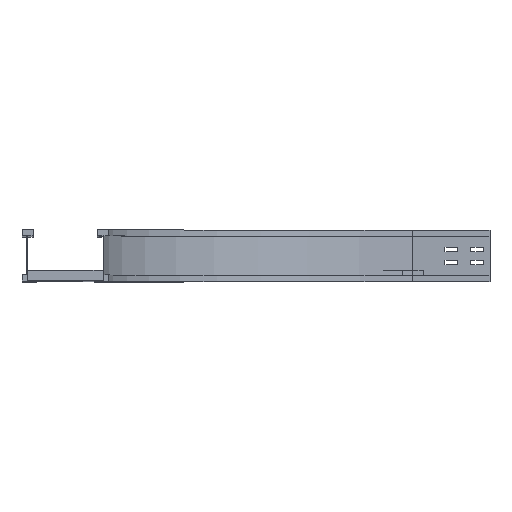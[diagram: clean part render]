
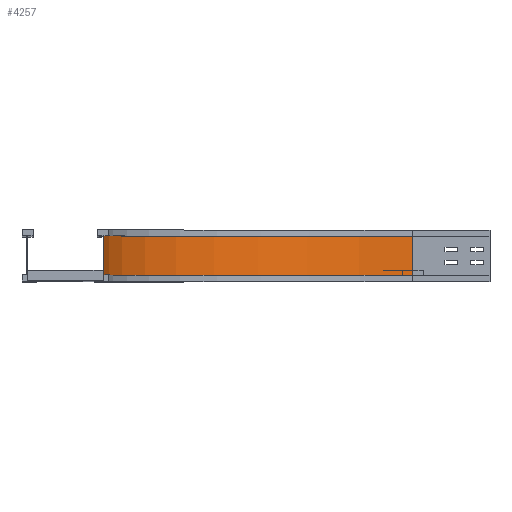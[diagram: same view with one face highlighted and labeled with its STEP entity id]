
A CAD part, top view. The second image highlights one B-rep face of the part: STEP entity #4257.
In plain terms, the highlighted cylindrical face has radius 600 mm (diameter 1200 mm), a partial arc.
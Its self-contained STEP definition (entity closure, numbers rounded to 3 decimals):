
#56 = ORIENTED_EDGE ( 'NONE', *, *, #4347, .F. ) ;
#118 = ORIENTED_EDGE ( 'NONE', *, *, #878, .T. ) ;
#312 = VERTEX_POINT ( 'NONE', #2364 ) ;
#419 = LINE ( 'NONE', #4355, #3199 ) ;
#502 = AXIS2_PLACEMENT_3D ( 'NONE', #1476, #2109, #1395 ) ;
#676 = FACE_OUTER_BOUND ( 'NONE', #1762, .T. ) ;
#768 = ORIENTED_EDGE ( 'NONE', *, *, #4382, .T. ) ;
#878 = EDGE_CURVE ( 'NONE', #2930, #3477, #3922, .T. ) ;
#1094 = DIRECTION ( 'NONE',  ( 0., 1., 0. ) ) ;
#1339 = DIRECTION ( 'NONE',  ( -1., 0., 0. ) ) ;
#1395 = DIRECTION ( 'NONE',  ( -1., 0., 0. ) ) ;
#1476 = CARTESIAN_POINT ( 'NONE',  ( 591., 12., -150. ) ) ;
#1478 = DIRECTION ( 'NONE',  ( 0., -1., 0. ) ) ;
#1740 = AXIS2_PLACEMENT_3D ( 'NONE', #3288, #1478, #3212 ) ;
#1762 = EDGE_LOOP ( 'NONE', ( #3290, #56, #118, #768 ) ) ;
#2096 = EDGE_CURVE ( 'NONE', #312, #2867, #3707, .T. ) ;
#2109 = DIRECTION ( 'NONE',  ( 0., -1., 0. ) ) ;
#2364 = CARTESIAN_POINT ( 'NONE',  ( -9., 88., -150. ) ) ;
#2526 = DIRECTION ( 'NONE',  ( 0., 1., 0. ) ) ;
#2867 = VERTEX_POINT ( 'NONE', #4274 ) ;
#2892 = VECTOR ( 'NONE', #2526, 1000. ) ;
#2930 = VERTEX_POINT ( 'NONE', #4668 ) ;
#3199 = VECTOR ( 'NONE', #1094, 1000. ) ;
#3212 = DIRECTION ( 'NONE',  ( 0., 0., -1. ) ) ;
#3288 = CARTESIAN_POINT ( 'NONE',  ( 591., 0., -150. ) ) ;
#3290 = ORIENTED_EDGE ( 'NONE', *, *, #2096, .F. ) ;
#3330 = AXIS2_PLACEMENT_3D ( 'NONE', #4640, #3600, #1339 ) ;
#3477 = VERTEX_POINT ( 'NONE', #3671 ) ;
#3600 = DIRECTION ( 'NONE',  ( 0., -1., 0. ) ) ;
#3671 = CARTESIAN_POINT ( 'NONE',  ( 591., 12., -750. ) ) ;
#3707 = CIRCLE ( 'NONE', #3330, 600. ) ;
#3922 = CIRCLE ( 'NONE', #502, 600. ) ;
#4257 = ADVANCED_FACE ( 'NONE', ( #676 ), #4692, .F. ) ;
#4274 = CARTESIAN_POINT ( 'NONE',  ( 591., 88., -750. ) ) ;
#4347 = EDGE_CURVE ( 'NONE', #2930, #312, #4377, .T. ) ;
#4355 = CARTESIAN_POINT ( 'NONE',  ( 591., 12., -750. ) ) ;
#4377 = LINE ( 'NONE', #4670, #2892 ) ;
#4382 = EDGE_CURVE ( 'NONE', #3477, #2867, #419, .T. ) ;
#4640 = CARTESIAN_POINT ( 'NONE',  ( 591., 88., -150. ) ) ;
#4668 = CARTESIAN_POINT ( 'NONE',  ( -9., 12., -150. ) ) ;
#4670 = CARTESIAN_POINT ( 'NONE',  ( -9., 12., -150. ) ) ;
#4692 = CYLINDRICAL_SURFACE ( 'NONE', #1740, 600. ) ;
